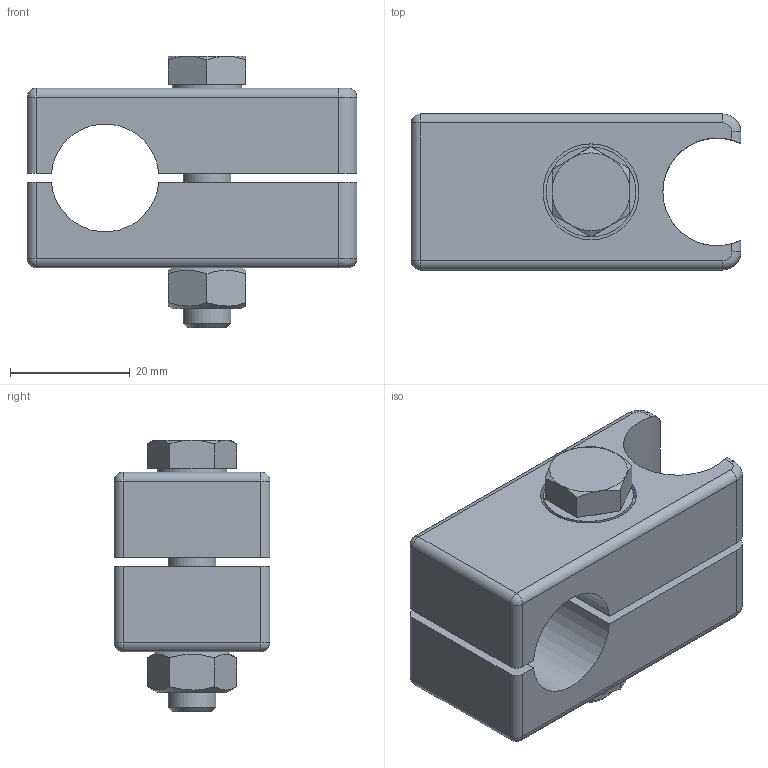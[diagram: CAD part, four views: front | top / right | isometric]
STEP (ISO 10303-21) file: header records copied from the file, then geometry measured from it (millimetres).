
FILE_DESCRIPTION((''),'2;1');
FILE_NAME('C:\Vault Klient\Projekt\Step\300-1040.stp','2009-12-04T10:21:46',('Mathias'),(''),'Autodesk Inventor 2010','Autodesk Inventor 2010','');
FILE_SCHEMA(('CONFIG_CONTROL_DESIGN'));
Length unit declared in the file: millimetre
Products named in the file (1): 300-1040
Bounding box: 55 x 26 x 45.3 mm (x, y, z)
Volume: 30808.6 mm3; surface area: 10868 mm2
Topology: 2 solids, 2 shells, 84 faces, 193 edges, 117 vertices
Faces by surface type: plane 36, cylinder 30, cone 10, bspline 4, sphere 4
Full cylindrical faces by diameter (mm): 8 x3, 11.63 x1, 15 x2, 16 x2
Entity records: 2549 total; most frequent: CARTESIAN_POINT 635, DIRECTION 380, ORIENTED_EDGE 350, EDGE_CURVE 175, AXIS2_PLACEMENT_3D 152, VERTEX_POINT 115, EDGE_LOOP 106, STYLED_ITEM 86
